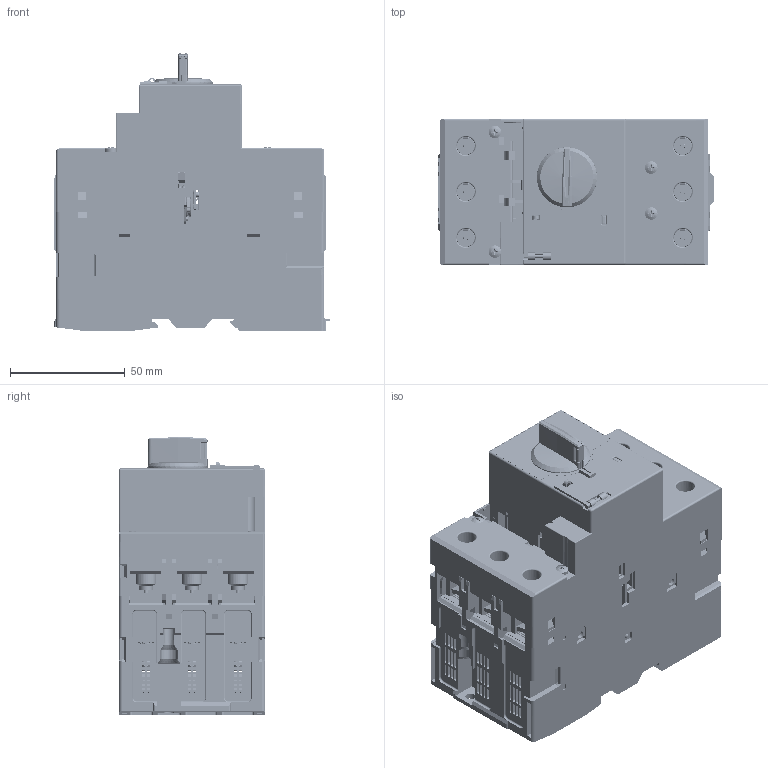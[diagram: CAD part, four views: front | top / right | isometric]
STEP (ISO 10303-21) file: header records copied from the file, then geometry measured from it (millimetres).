
FILE_DESCRIPTION(/* description */ (''),/* implementation_level */ '2;1');
FILE_NAME(/* name */ 'NS2-80n.stp',/* time_stamp */ '2020-09-05T14:35:37+08:00',/* author */ (''),/* organization */ (''),/* preprocessor_version */ 'ST-DEVELOPER v16',/* originating_system */ 'SIEMENS PLM Software NX 11.0',/* authorisation */ '');
FILE_SCHEMA (('AP203_CONFIGURATION_CONTROLLED_3D_DESIGN_OF_MECHANICAL_PARTS_AND_ASSEMBLIES_MIM_LF { 1 0 10303 403 2 1 2}'));
Products named in the file (77): 8.240.A001; 8.272.A014; 8ZTD.150.251; 8.205.A194; 8.205.A033; 8.233.A019; 8.235.A005; 8.510.A002; 5.612.A002_STEPID133610-C0; 5.420.A002.1-6G; 8.552.A002_108625ID; 8.551.A001; 8-872-013; 8ZTD-253-883N; 8.310.A002; 8.231.A012; 8.205.A028; 8.205.A031; 8.205.A029; 8.040.A004; 8.040.A015; 8.205.A032; 8.235.A007; 8.270.A001; 8.288.A013; 8ZTD.959.010; 8ZTD.271.078; 8ZTD.907.006; 8ZTD.574.098; 8.510.A001; 8.551.A038; 8ZTD.732.337; 8.125.A001; 8.282.A010; 8.124.A001; 8.751.A001; 8.618.A001; 8.745.A005; 8.745.A004; 8.745.A003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
Assembly tree (118 placements, depth 6):
  NS2-80_stp
    5.022.A002
      5.740.A002  x6
        8.141.A005
        8.745.A003
        8.745.A004
        8.745.A005
      5.614.A001  x6
        8.618.A001
        8.751.A001
      8.005.A003
      8.593.A001  x3
      5.553.A001_MODEL  x3
        8.124.A001
        8.282.A010
        8.125.A001
        5.552.A001_MODEL
          8.551.A001  x2
          8.552.A002_108625ID
    5.024.A005.1-6
      5.615.A002.1-610564  x3
        5.421.A001.1-6G10563
          5.420.A002.1-6G
        8ZTD.732.337
        5.574.A002
          5.612.A002_STEPID133610-C0
        5ZTD.574.035
          8ZTD.574.098
          8ZTD.907.006
          8ZTD.271.078
          8ZTD.959.010
        5.550.A004
          8.551.A038
          8.510.A002
        8ZTD.616.080
      5.550.A003  x3
        8.551.A038
        8.510.A001
      5ZTD.574.035  x3
        8ZTD.574.098
        8ZTD.907.006
        8ZTD.271.078
        8ZTD.959.010
      8ZTD.616.080  x3
      5.295.A001
        5.233.A004
          5.241.A001
            8.272.A014
            8.240.A001
          8.235.A005
          8.233.A019
          8.205.A033
          8.205.A194  x2
        8.288.A013
        8.270.A001
        8.235.A007
        8.205.A032
        8.040.A015
        8.040.A004
        8.205.A029
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Bounding box: 119.91 x 63.6 x 120.98 mm (x, y, z)
Volume: 223893.5 mm3; surface area: 385951 mm2
Topology: 195 solids, 200 shells, 13145 faces, 36933 edges, 24207 vertices
Faces by surface type: plane 10630, cylinder 1902, cone 263, torus 169, bspline 137, sphere 34, extrusion 10
Full cylindrical faces by diameter (mm): 1 x1, 1.2 x1, 1.5 x2, 1.573 x4, 1.574 x4, 1.7 x10, 1.8 x1, 1.9 x2, 2 x2, 2.001 x2, 2.128 x4, 2.129 x8, 2.2 x8, 2.4 x2, 2.5 x5, 2.9 x4, 3 x1, 3.1 x8, 3.85 x4, 4 x2, 4.5 x1, 4.6 x3, 5 x1, 5.45 x4, 5.5 x2, 6 x6, 8 x1, 8.5 x1, 8.652 x1, 15 x1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
Entity records: 263639 total; most frequent: CARTESIAN_POINT 52764, ORIENTED_EDGE 37506, DIRECTION 34706, EDGE_CURVE 18753, VECTOR 15012, LINE 15002, VERTEX_POINT 12309, AXIS2_PLACEMENT_3D 9847
